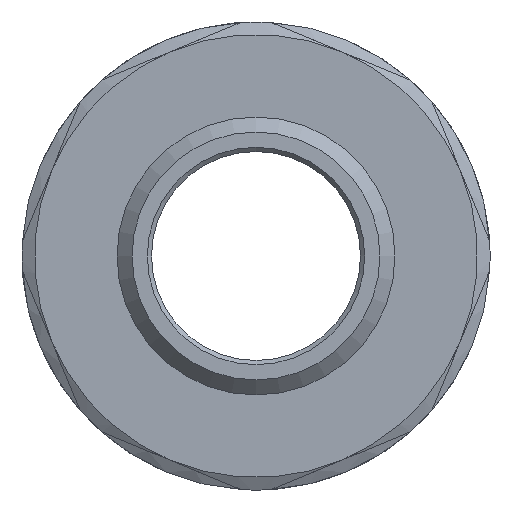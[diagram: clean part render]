
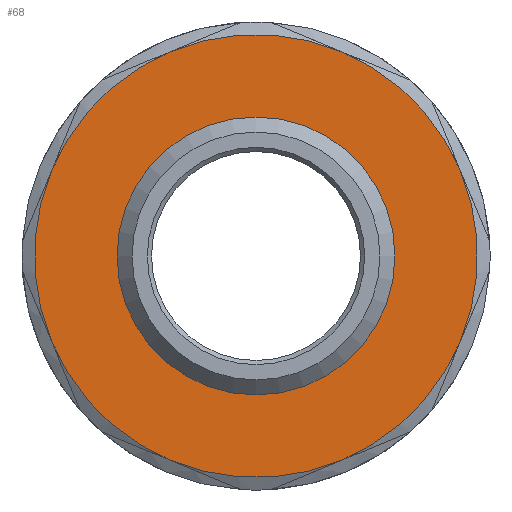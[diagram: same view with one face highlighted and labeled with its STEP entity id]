
A CAD part, front view. The second image highlights one B-rep face of the part: STEP entity #68.
In plain terms, the highlighted planar face has unit normal (0, -1, 0).
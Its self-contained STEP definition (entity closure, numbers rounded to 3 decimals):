
#68=ADVANCED_FACE('',(#256,#258),#260,.F.);
#256=FACE_BOUND('',#257,.T.);
#257=EDGE_LOOP('',(#422));
#258=FACE_BOUND('',#259,.T.);
#259=EDGE_LOOP('',(#423));
#260=PLANE('',#261);
#261=AXIS2_PLACEMENT_3D('',#262,#263,#264);
#262=CARTESIAN_POINT('',(0.,-23.5,0.));
#263=DIRECTION('',(0.,1.,0.));
#264=DIRECTION('',(-1.,0.,0.));
#422=ORIENTED_EDGE('',*,*,#483,.T.);
#423=ORIENTED_EDGE('',*,*,#476,.F.);
#476=EDGE_CURVE('',#580,#580,#581,.T.);
#483=EDGE_CURVE('',#588,#588,#590,.F.);
#580=VERTEX_POINT('',#797);
#581=CIRCLE('',#798,16.625);
#588=VERTEX_POINT('',#927);
#590=CIRCLE('',#945,26.5);
#797=CARTESIAN_POINT('',(16.625,-23.5,0.));
#798=AXIS2_PLACEMENT_3D('',#799,#800,#801);
#799=CARTESIAN_POINT('',(0.,-23.5,0.));
#800=DIRECTION('',(0.,-1.,0.));
#801=DIRECTION('',(1.,0.,0.));
#927=CARTESIAN_POINT('',(-24.483,-23.5,-10.141));
#945=AXIS2_PLACEMENT_3D('',#946,#947,#948);
#946=CARTESIAN_POINT('',(0.,-23.5,0.));
#947=DIRECTION('',(0.,1.,0.));
#948=DIRECTION('',(1.,0.,0.));
